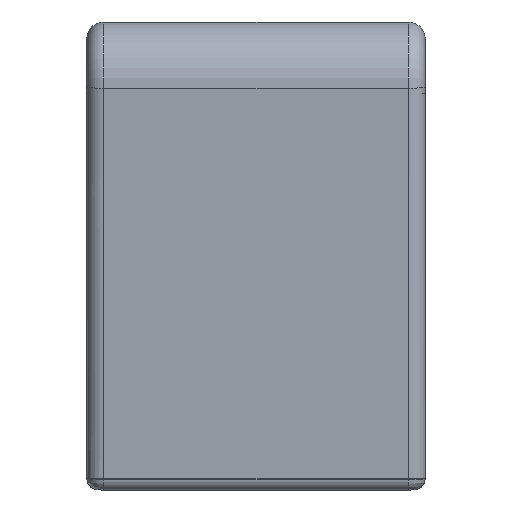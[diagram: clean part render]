
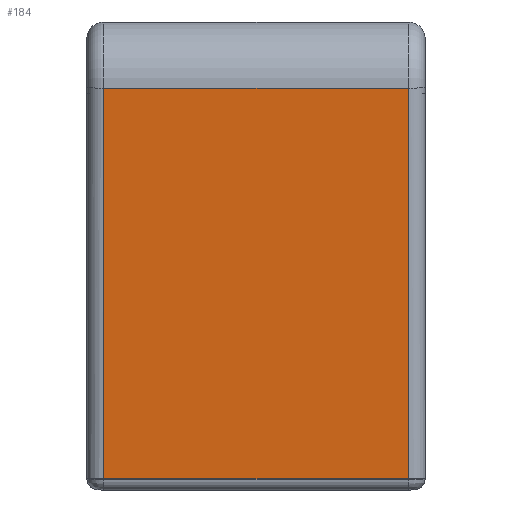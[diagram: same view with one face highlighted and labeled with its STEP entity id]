
A CAD part, left-side view. The second image highlights one B-rep face of the part: STEP entity #184.
In plain terms, the highlighted planar face has unit normal (-0.998, 0, -0.067).
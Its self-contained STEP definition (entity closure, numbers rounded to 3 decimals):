
#27 = EDGE_LOOP ( 'NONE', ( #2930, #2928, #2926, #2923 ) ) ;
#184 = ADVANCED_FACE ( 'NONE', ( #3468 ), #3166, .T. ) ;
#497 = AXIS2_PLACEMENT_3D ( 'NONE', #3000, #2996, #2994 ) ;
#691 = EDGE_CURVE ( 'NONE', #5058, #5037, #4389, .T. ) ;
#692 = EDGE_CURVE ( 'NONE', #5037, #5041, #4393, .T. ) ;
#693 = EDGE_CURVE ( 'NONE', #5041, #5054, #4397, .T. ) ;
#694 = EDGE_CURVE ( 'NONE', #5058, #5054, #4402, .T. ) ;
#966 = CARTESIAN_POINT ( 'NONE',  ( -315., 13.5, -7. ) ) ;
#967 = DIRECTION ( 'NONE',  ( 0.067, 0., -0.998 ) ) ;
#968 = CARTESIAN_POINT ( 'NONE',  ( -315.063, 15., -6.067 ) ) ;
#969 = DIRECTION ( 'NONE',  ( 0., -1., 0. ) ) ;
#970 = CARTESIAN_POINT ( 'NONE',  ( -317.388, -13.5, 28.632 ) ) ;
#971 = DIRECTION ( 'NONE',  ( -0.067, 0., 0.998 ) ) ;
#972 = CARTESIAN_POINT ( 'NONE',  ( -317.388, 15., 28.632 ) ) ;
#973 = DIRECTION ( 'NONE',  ( 0., -1., 0. ) ) ;
#1319 = CARTESIAN_POINT ( 'NONE',  ( -315.063, 13.5, -6.067 ) ) ;
#1323 = CARTESIAN_POINT ( 'NONE',  ( -315.063, -13.5, -6.067 ) ) ;
#1336 = CARTESIAN_POINT ( 'NONE',  ( -317.388, -13.5, 28.632 ) ) ;
#1340 = CARTESIAN_POINT ( 'NONE',  ( -317.388, 13.5, 28.632 ) ) ;
#2923 = ORIENTED_EDGE ( 'NONE', *, *, #694, .F. ) ;
#2926 = ORIENTED_EDGE ( 'NONE', *, *, #693, .T. ) ;
#2928 = ORIENTED_EDGE ( 'NONE', *, *, #692, .T. ) ;
#2930 = ORIENTED_EDGE ( 'NONE', *, *, #691, .T. ) ;
#2994 = DIRECTION ( 'NONE',  ( -0.067, 0., 0.998 ) ) ;
#2996 = DIRECTION ( 'NONE',  ( -0.998, 0., -0.067 ) ) ;
#3000 = CARTESIAN_POINT ( 'NONE',  ( -315., 15., -7. ) ) ;
#3166 = PLANE ( 'NONE',  #497 ) ;
#3468 = FACE_OUTER_BOUND ( 'NONE', #27, .T. ) ;
#4389 = LINE ( 'NONE', #966, #4391 ) ;
#4391 = VECTOR ( 'NONE', #967, 1000. ) ;
#4393 = LINE ( 'NONE', #968, #4395 ) ;
#4395 = VECTOR ( 'NONE', #969, 1000. ) ;
#4397 = LINE ( 'NONE', #970, #4400 ) ;
#4400 = VECTOR ( 'NONE', #971, 1000. ) ;
#4402 = LINE ( 'NONE', #972, #4404 ) ;
#4404 = VECTOR ( 'NONE', #973, 1000. ) ;
#5037 = VERTEX_POINT ( 'NONE', #1319 ) ;
#5041 = VERTEX_POINT ( 'NONE', #1323 ) ;
#5054 = VERTEX_POINT ( 'NONE', #1336 ) ;
#5058 = VERTEX_POINT ( 'NONE', #1340 ) ;
